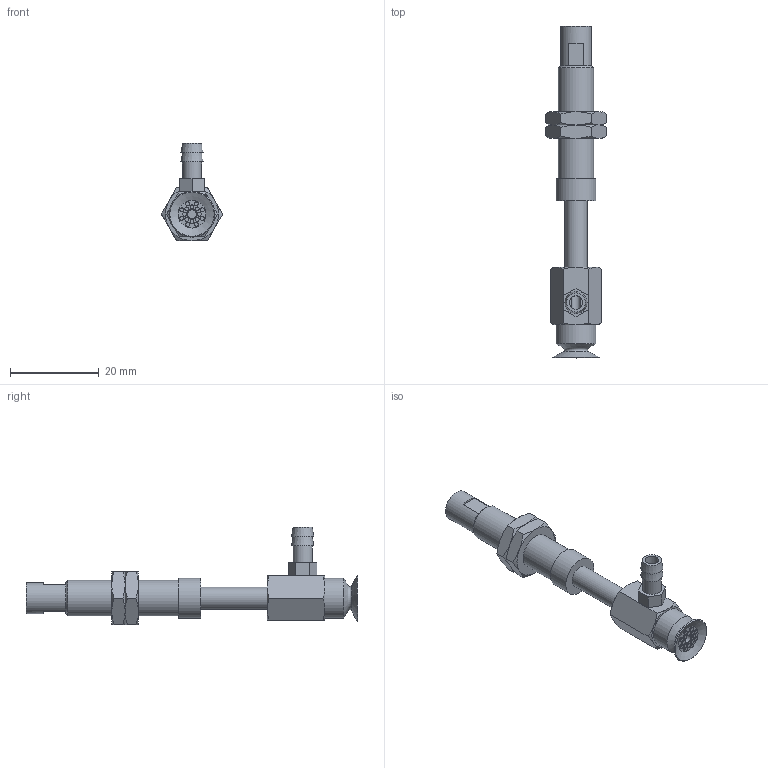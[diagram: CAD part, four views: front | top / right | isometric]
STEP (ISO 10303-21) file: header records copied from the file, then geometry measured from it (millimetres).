
FILE_DESCRIPTION(('STEP AP203'),'1');
FILE_NAME('-T.stp','2025-02-11T06:50:30',(' '),(' '),'Spatial InterOp 3D',' ',' ');
FILE_SCHEMA(('CONFIG_CONTROL_DESIGN'));
Length unit declared in the file: millimetre
Products named in the file (7): BNABPAYS-10A-15-※-T; NAPAYS-10A-15--M; NAPAYS-10A-15--F; Nut-10A-S; CONNECTOR-10A-15-PA; T; BPAG-10A-※_3D
Assembly tree (7 placements, depth 2):
  BNABPAYS-10A-15-※-T
    NAPAYS-10A-15--M
    NAPAYS-10A-15--F
    Nut-10A-S  x2
    CONNECTOR-10A-15-PA
    T
    BPAG-10A-※_3D
Bounding box: 13.86 x 75 x 22 mm (x, y, z)
Volume: 4107.7 mm3; surface area: 5224.3 mm2
Topology: 7 solids, 7 shells, 179 faces, 353 edges, 217 vertices
Faces by surface type: plane 79, cone 54, cylinder 36, torus 10
Full cylindrical faces by diameter (mm): 0.9 x16, 2 x2, 3 x1, 4 x2, 4.134 x2, 4.3 x1, 5 x4, 6 x2, 7 x1, 7.188 x2, 8 x1, 9 x2
Entity records: 4230 total; most frequent: CARTESIAN_POINT 932, DIRECTION 638, ORIENTED_EDGE 476, AXIS2_PLACEMENT_3D 290, EDGE_LOOP 256, EDGE_CURVE 238, FACE_OUTER_BOUND 201, VERTEX_POINT 182
